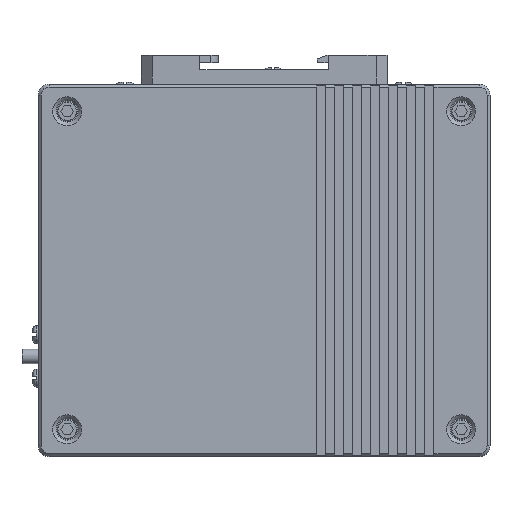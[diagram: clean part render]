
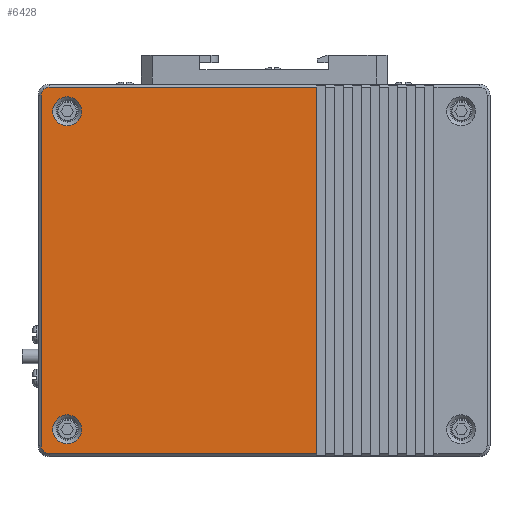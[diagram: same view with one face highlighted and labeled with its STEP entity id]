
A CAD part, top view. The second image highlights one B-rep face of the part: STEP entity #6428.
In plain terms, the highlighted planar face has unit normal (0, 0, 1).
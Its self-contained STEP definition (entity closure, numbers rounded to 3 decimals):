
#5431=CARTESIAN_POINT('',(14.5,-50.7,38.5));
#5432=VERTEX_POINT('',#5431);
#5439=CARTESIAN_POINT('',(-59.5,-50.7,38.5));
#5440=VERTEX_POINT('',#5439);
#5441=CARTESIAN_POINT('',(14.5,-50.7,38.5));
#5442=DIRECTION('',(-1.,0.,0.));
#5443=VECTOR('',#5442,74.);
#5444=LINE('',#5441,#5443);
#5445=EDGE_CURVE('',#5432,#5440,#5444,.T.);
#5469=CARTESIAN_POINT('',(-61.7,-48.5,38.5));
#5470=VERTEX_POINT('',#5469);
#5471=CARTESIAN_POINT('',(-59.5,-48.5,38.5));
#5472=DIRECTION('',(0.,-1.,0.));
#5473=DIRECTION('',(0.,0.,-1.));
#5474=AXIS2_PLACEMENT_3D('',#5471,#5473,#5472);
#5475=CIRCLE('',#5474,2.2);
#5476=EDGE_CURVE('',#5440,#5470,#5475,.T.);
#5494=CARTESIAN_POINT('',(-61.7,48.5,38.5));
#5495=VERTEX_POINT('',#5494);
#5496=CARTESIAN_POINT('',(-61.7,-48.5,38.5));
#5497=DIRECTION('',(0.,1.,0.));
#5498=VECTOR('',#5497,97.);
#5499=LINE('',#5496,#5498);
#5500=EDGE_CURVE('',#5470,#5495,#5499,.T.);
#5518=CARTESIAN_POINT('',(-59.5,50.7,38.5));
#5519=VERTEX_POINT('',#5518);
#5520=CARTESIAN_POINT('',(-59.5,48.5,38.5));
#5521=DIRECTION('',(-1.,0.,0.));
#5522=DIRECTION('',(0.,0.,-1.));
#5523=AXIS2_PLACEMENT_3D('',#5520,#5522,#5521);
#5524=CIRCLE('',#5523,2.2);
#5525=EDGE_CURVE('',#5495,#5519,#5524,.T.);
#5581=CARTESIAN_POINT('',(14.5,50.7,38.5));
#5582=VERTEX_POINT('',#5581);
#5583=CARTESIAN_POINT('',(-59.5,50.7,38.5));
#5584=DIRECTION('',(1.,0.,0.));
#5585=VECTOR('',#5584,74.);
#5586=LINE('',#5583,#5585);
#5587=EDGE_CURVE('',#5519,#5582,#5586,.T.);
#6365=CARTESIAN_POINT('',(14.5,50.7,38.5));
#6366=DIRECTION('',(0.,-1.,0.));
#6367=VECTOR('',#6366,101.4);
#6368=LINE('',#6365,#6367);
#6369=EDGE_CURVE('',#5582,#5432,#6368,.T.);
#6375=CARTESIAN_POINT('',(-59.5,-48.5,38.5));
#6376=DIRECTION('',(-1.,0.,0.));
#6377=DIRECTION('',(0.,0.,1.));
#6378=AXIS2_PLACEMENT_3D('',#6375,#6377,#6376);
#6379=PLANE('',#6378);
#6380=ORIENTED_EDGE('',*,*,#6369,.F.);
#6381=ORIENTED_EDGE('',*,*,#5587,.F.);
#6382=ORIENTED_EDGE('',*,*,#5525,.F.);
#6383=ORIENTED_EDGE('',*,*,#5500,.F.);
#6384=ORIENTED_EDGE('',*,*,#5476,.F.);
#6385=ORIENTED_EDGE('',*,*,#5445,.F.);
#6386=EDGE_LOOP('',(#6380,#6381,#6382,#6383,#6384,#6385));
#6387=FACE_OUTER_BOUND('',#6386,.T.);
#6388=CARTESIAN_POINT('',(-58.5,44.,38.5));
#6389=VERTEX_POINT('',#6388);
#6390=CARTESIAN_POINT('',(-50.5,44.,38.5));
#6391=VERTEX_POINT('',#6390);
#6392=CARTESIAN_POINT('',(-54.5,44.,38.5));
#6393=DIRECTION('',(-1.,0.,0.));
#6394=DIRECTION('',(0.,0.,-1.));
#6395=AXIS2_PLACEMENT_3D('',#6392,#6394,#6393);
#6396=CIRCLE('',#6395,4.);
#6397=EDGE_CURVE('',#6389,#6391,#6396,.T.);
#6398=ORIENTED_EDGE('',*,*,#6397,.T.);
#6399=CARTESIAN_POINT('',(-54.5,44.,38.5));
#6400=DIRECTION('',(1.,0.,0.));
#6401=DIRECTION('',(0.,0.,-1.));
#6402=AXIS2_PLACEMENT_3D('',#6399,#6401,#6400);
#6403=CIRCLE('',#6402,4.);
#6404=EDGE_CURVE('',#6391,#6389,#6403,.T.);
#6405=ORIENTED_EDGE('',*,*,#6404,.T.);
#6406=EDGE_LOOP('',(#6398,#6405));
#6407=FACE_BOUND('',#6406,.T.);
#6408=CARTESIAN_POINT('',(-58.5,-44.,38.5));
#6409=VERTEX_POINT('',#6408);
#6410=CARTESIAN_POINT('',(-50.5,-44.,38.5));
#6411=VERTEX_POINT('',#6410);
#6412=CARTESIAN_POINT('',(-54.5,-44.,38.5));
#6413=DIRECTION('',(-1.,0.,0.));
#6414=DIRECTION('',(0.,0.,-1.));
#6415=AXIS2_PLACEMENT_3D('',#6412,#6414,#6413);
#6416=CIRCLE('',#6415,4.);
#6417=EDGE_CURVE('',#6409,#6411,#6416,.T.);
#6418=ORIENTED_EDGE('',*,*,#6417,.T.);
#6419=CARTESIAN_POINT('',(-54.5,-44.,38.5));
#6420=DIRECTION('',(1.,0.,0.));
#6421=DIRECTION('',(0.,0.,-1.));
#6422=AXIS2_PLACEMENT_3D('',#6419,#6421,#6420);
#6423=CIRCLE('',#6422,4.);
#6424=EDGE_CURVE('',#6411,#6409,#6423,.T.);
#6425=ORIENTED_EDGE('',*,*,#6424,.T.);
#6426=EDGE_LOOP('',(#6418,#6425));
#6427=FACE_BOUND('',#6426,.T.);
#6428=ADVANCED_FACE('',(#6387,#6407,#6427),#6379,.T.);
